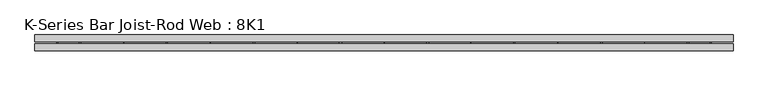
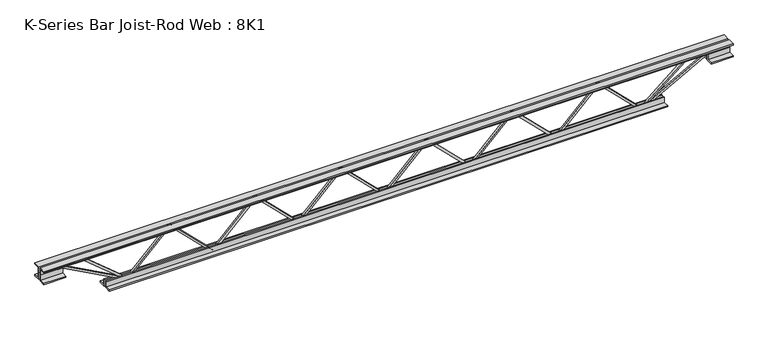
"""IFC4 building model written with IfcOpenShell, lengths in millimetres: beam geometry, K-Series Bar Joist-Rod Web : 8K1."""

from ifc_helpers import new_model, si_unit, frame, origin, place, context, project, spatial, polyline, outline, extrude, source, transform, mapped, element, save


def k_series_bar_joist_rod_web_8k1_a298f018(model_context):
    return source(origin(), model_context, "Body", "SweptSolid", [
        extrude(outline(polyline([(-90.4875, 398.8522061), (-100.0125, 398.8522061), (-100.0125, 403.981188), (90.4875, 597.057291), (90.4875, 599.4993272), (-100.0125, 792.5754302), (-100.0125, 797.7044121), (-90.4875, 797.7044121), (-90.4875, 796.483394), (100.0125, 603.407291), (100.0125, 593.1493272), (-90.4875, 400.0732241), (-90.4875, 398.8522061)])), frame((0.0, -4.7625, 0.0), z_axis=(0.0, 1.0, 0.0), x_axis=(0.0, 0.0, 1.0)), (0.0, 0.0, 1.0), 9.525),
        extrude(outline(polyline([(-90.4875, 0.0), (-100.0125, 0.0), (-100.0125, 5.1289819), (90.4875, 198.205085), (90.4875, 200.6471211), (-100.0125, 393.7232241), (-100.0125, 398.8522061), (-90.4875, 398.8522061), (-90.4875, 397.631188), (100.0125, 204.555085), (100.0125, 194.2971211), (-90.4875, 1.2210181), (-90.4875, 0.0)])), frame((0.0, -4.7625, 0.0), z_axis=(0.0, 1.0, 0.0), x_axis=(0.0, 0.0, 1.0)), (0.0, 0.0, 1.0), 9.525),
        extrude(outline(polyline([(-90.4875, -398.8522061), (-100.0125, -398.8522061), (-100.0125, -393.7232241), (90.4875, -200.6471211), (90.4875, -198.205085), (-100.0125, -5.1289819), (-100.0125, 0.0), (-90.4875, 0.0), (-90.4875, -1.2210181), (100.0125, -194.2971211), (100.0125, -204.555085), (-90.4875, -397.631188), (-90.4875, -398.8522061)])), frame((0.0, -4.7625, 0.0), z_axis=(0.0, 1.0, 0.0), x_axis=(0.0, 0.0, 1.0)), (0.0, 0.0, 1.0), 9.525),
        extrude(outline(polyline([(-90.4875, -797.7044121), (-100.0125, -797.7044121), (-100.0125, -792.5754302), (90.4875, -599.4993272), (90.4875, -597.057291), (-100.0125, -403.981188), (-100.0125, -398.8522061), (-90.4875, -398.8522061), (-90.4875, -400.0732241), (100.0125, -593.1493272), (100.0125, -603.407291), (-90.4875, -796.483394), (-90.4875, -797.7044121)])), frame((0.0, -4.7625, 0.0), z_axis=(0.0, 1.0, 0.0), x_axis=(0.0, 0.0, 1.0)), (0.0, 0.0, 1.0), 9.525),
        extrude(outline(polyline([(-90.4875, 797.7044121), (-100.0125, 797.7044121), (-100.0125, 802.833394), (90.4875, 995.9094971), (90.4875, 998.3515332), (-100.0125, 1191.4276362), (-100.0125, 1196.5566182), (-90.4875, 1196.5566182), (-90.4875, 1195.3356001), (100.0125, 1002.2594971), (100.0125, 992.0015332), (-90.4875, 798.9254302), (-90.4875, 797.7044121)])), frame((0.0, -4.7625, 0.0), z_axis=(0.0, 1.0, 0.0), x_axis=(0.0, 0.0, 1.0)), (0.0, 0.0, 1.0), 9.525),
        extrude(outline(polyline([(-90.4875, -1196.5566182), (-100.0125, -1196.5566182), (-100.0125, -1191.4276362), (90.4875, -998.3515332), (90.4875, -995.9094971), (-100.0125, -802.833394), (-100.0125, -797.7044121), (-90.4875, -797.7044121), (-90.4875, -798.9254302), (100.0125, -992.0015332), (100.0125, -1002.2594971), (-90.4875, -1195.3356001), (-90.4875, -1196.5566182)])), frame((0.0, -4.7625, 0.0), z_axis=(0.0, 1.0, 0.0), x_axis=(0.0, 0.0, 1.0)), (0.0, 0.0, 1.0), 9.525),
        extrude(outline(polyline([(4.7625, 101.6), (36.5125, 101.6), (36.5125, 95.25), (11.1125, 95.25), (11.1125, 69.85), (4.7625, 69.85), (4.7625, 101.6)])), frame((-1602.9566182, 0.0, 0.0), z_axis=(1.0, 0.0, 0.0), x_axis=(0.0, 1.0, 0.0)), (0.0, 0.0, 1.0), 3205.9132363),
        extrude(outline(polyline([(-4.7625, 101.6), (-4.7625, 69.85), (-11.1125, 69.85), (-11.1125, 95.25), (-36.5125, 95.25), (-36.5125, 101.6), (-4.7625, 101.6)])), frame((-1602.9566182, 0.0, 0.0), z_axis=(1.0, 0.0, 0.0), x_axis=(0.0, 1.0, 0.0)), (0.0, 0.0, 1.0), 3205.9132363),
        extrude(outline(polyline([(-4.7625, 38.1), (-36.5125, 38.1), (-36.5125, 44.45), (-11.1125, 44.45), (-11.1125, 69.85), (-4.7625, 69.85), (-4.7625, 38.1)])), frame((-1602.9566182, 0.0, 0.0), z_axis=(1.0, 0.0, 0.0), x_axis=(0.0, 1.0, 0.0)), (0.0, 0.0, 1.0), 101.6),
        extrude(outline(polyline([(36.5125, 38.1), (4.7625, 38.1), (4.7625, 69.85), (11.1125, 69.85), (11.1125, 44.45), (36.5125, 44.45), (36.5125, 38.1)])), frame((-1602.9566182, 0.0, 0.0), z_axis=(1.0, 0.0, 0.0), x_axis=(0.0, 1.0, 0.0)), (0.0, 0.0, 1.0), 101.6),
        extrude(outline(polyline([(4.7625, 38.1), (4.7625, 69.85), (11.1125, 69.85), (11.1125, 44.45), (36.5125, 44.45), (36.5125, 38.1), (4.7625, 38.1)])), frame((1501.3566182, 0.0, 0.0), z_axis=(1.0, 0.0, 0.0), x_axis=(0.0, 1.0, 0.0)), (0.0, 0.0, 1.0), 101.6),
        extrude(outline(polyline([(-4.7625, 38.1), (-36.5125, 38.1), (-36.5125, 44.45), (-11.1125, 44.45), (-11.1125, 69.85), (-4.7625, 69.85), (-4.7625, 38.1)])), frame((1501.3566182, 0.0, 0.0), z_axis=(1.0, 0.0, 0.0), x_axis=(0.0, 1.0, 0.0)), (0.0, 0.0, 1.0), 101.6),
        extrude(outline(polyline([(4.7625, -101.6), (4.7625, -69.85), (11.1125, -69.85), (11.1125, -95.25), (36.5125, -95.25), (36.5125, -101.6), (4.7625, -101.6)])), frame((-1298.1566182, 0.0, 0.0), z_axis=(1.0, 0.0, 0.0), x_axis=(0.0, 1.0, 0.0)), (0.0, 0.0, 1.0), 2596.3132363),
        extrude(outline(polyline([(-4.7625, -101.6), (-36.5125, -101.6), (-36.5125, -95.25), (-11.1125, -95.25), (-11.1125, -69.85), (-4.7625, -69.85), (-4.7625, -101.6)])), frame((-1298.1566182, 0.0, 0.0), z_axis=(1.0, 0.0, 0.0), x_axis=(0.0, 1.0, 0.0)), (0.0, 0.0, 1.0), 2596.3132363),
        extrude(outline(polyline([(0.0, -9.525), (0.0, 0.0), (346.6425392, 0.0), (346.6425392, -9.525), (0.0, -9.525)])), frame((-1503.6249167, 4.7625, 65.662372), z_axis=(0.4762831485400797, 0.0, 0.8792919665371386), x_axis=(0.8792919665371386, 0.0, -0.4762831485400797)), (0.0, 0.0, 1.0), 9.525),
        extrude(outline(polyline([(0.0, -9.525), (0.0, 0.0), (258.8991706, 0.0), (258.8991706, -9.525), (0.0, -9.525)])), frame((-1399.0197674, 4.7625, 66.1815185), z_axis=(0.6376999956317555, 0.0, 0.7702848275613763), x_axis=(0.7702848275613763, 0.0, -0.6376999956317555)), (0.0, 0.0, 1.0), 9.525),
        extrude(outline(polyline([(0.0, -9.525), (0.0, 0.0), (346.6425392, 0.0), (346.6425392, -9.525), (0.0, -9.525)])), frame((1503.6249167, -4.7625, 65.662372), z_axis=(-0.47628314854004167, 0.0, 0.8792919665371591), x_axis=(-0.8792919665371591, 0.0, -0.47628314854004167)), (0.0, 0.0, 1.0), 9.525),
        extrude(outline(polyline([(0.0, -9.525), (0.0, 0.0), (258.8991706, 0.0), (258.8991706, -9.525), (0.0, -9.525)])), frame((1399.0197674, -4.7625, 66.1815185), z_axis=(-0.6376999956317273, 0.0, 0.7702848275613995), x_axis=(-0.7702848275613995, 0.0, -0.6376999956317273)), (0.0, 0.0, 1.0), 9.525),
    ])


if __name__ == "__main__":
    model = new_model("IFC4")
    model_context = context("Model", 3, world=origin())
    ifc_project = project(units=[si_unit("LENGTHUNIT", "METRE", prefix="MILLI")], contexts=[model_context])
    site = spatial("IfcSite", under=ifc_project)
    building = spatial("IfcBuilding", under=site)
    placement = place(None, origin())
    k_series_bar_joist_rod_web_8k1_shape = k_series_bar_joist_rod_web_8k1_a298f018(model_context)
    element("IfcBeam", 1, ObjectType="K-Series Bar Joist-Rod Web : 8K1", at=placement, inside=building, context=model_context, shape_type="MappedRepresentation", body=[
        mapped(k_series_bar_joist_rod_web_8k1_shape, transform((0.0, 0.0, 0.0), x_axis=(1.0, 0.0, 0.0), y_axis=(0.0, 1.0, 0.0), z_axis=(0.0, 0.0, 1.0))),
    ])
    save(model, "model.ifc")
